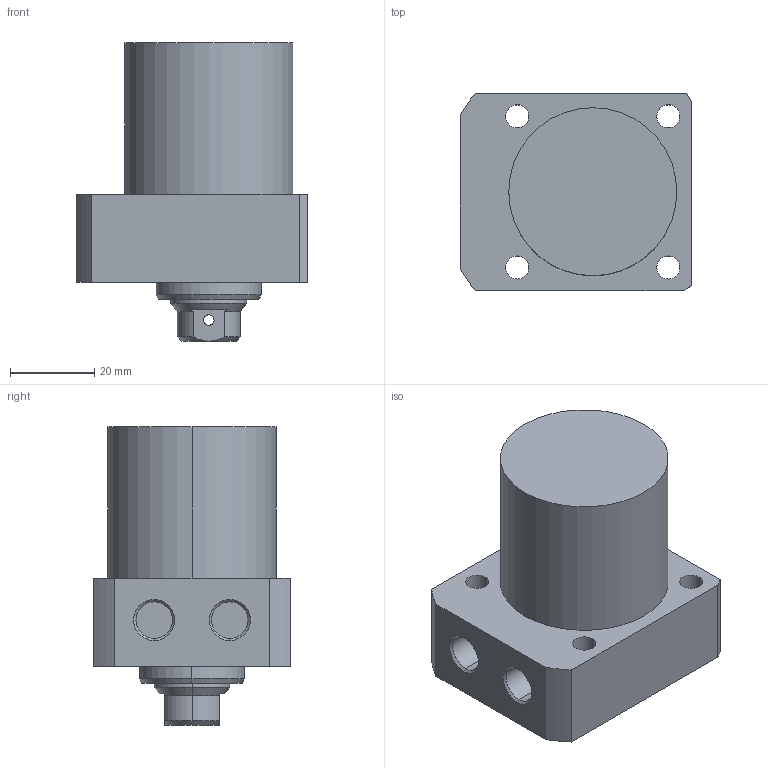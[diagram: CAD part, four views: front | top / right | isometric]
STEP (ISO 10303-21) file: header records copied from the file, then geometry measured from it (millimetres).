
FILE_DESCRIPTION (( 'STEP AP203' ), '1' );
FILE_NAME ('CLL-R040-CB-025.STEP', '2017-05-10T11:56:45', ( '' ), ( '' ), 'SwSTEP 2.0', 'SolidWorks 2015', '' );
FILE_SCHEMA (( 'CONFIG_CONTROL_DESIGN' ));
Length unit declared in the file: millimetre
Products named in the file (1): CLL-R040-CB-025
Bounding box: 55 x 47 x 71 mm (x, y, z)
Volume: 98273.3 mm3; surface area: 17017 mm2
Topology: 1 solids, 1 shells, 67 faces, 159 edges, 100 vertices
Faces by surface type: cylinder 33, plane 19, cone 15
Entity records: 2129 total; most frequent: CARTESIAN_POINT 441, DIRECTION 358, ORIENTED_EDGE 314, EDGE_CURVE 157, AXIS2_PLACEMENT_3D 145, VERTEX_POINT 100, EDGE_LOOP 87, CIRCLE 77
